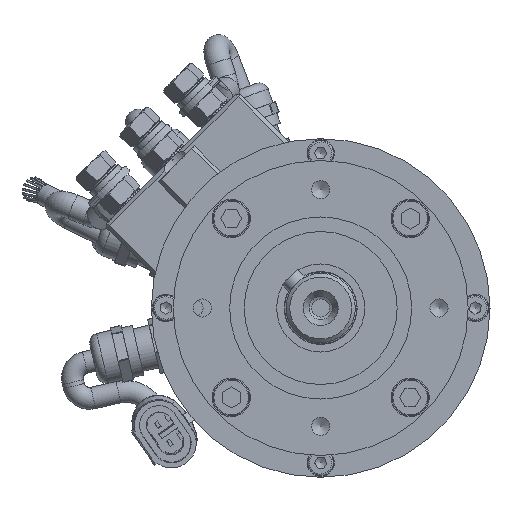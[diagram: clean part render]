
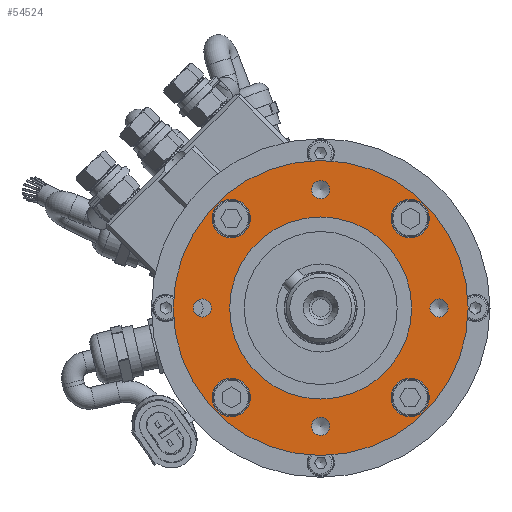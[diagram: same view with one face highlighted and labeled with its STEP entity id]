
A CAD part, front view. The second image highlights one B-rep face of the part: STEP entity #54524.
In plain terms, the highlighted planar face has unit normal (0, -1, 0).
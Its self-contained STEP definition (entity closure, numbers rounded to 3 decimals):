
#531=FACE_BOUND('',#6748,.T.);
#532=FACE_BOUND('',#6749,.T.);
#533=FACE_BOUND('',#6750,.T.);
#534=FACE_BOUND('',#6751,.T.);
#535=FACE_BOUND('',#6752,.T.);
#536=FACE_BOUND('',#6753,.T.);
#537=FACE_BOUND('',#6754,.T.);
#538=FACE_BOUND('',#6755,.T.);
#539=FACE_BOUND('',#6756,.T.);
#956=PLANE('',#57934);
#3651=FACE_OUTER_BOUND('',#6747,.T.);
#6747=EDGE_LOOP('',(#36762));
#6748=EDGE_LOOP('',(#36763));
#6749=EDGE_LOOP('',(#36764));
#6750=EDGE_LOOP('',(#36765));
#6751=EDGE_LOOP('',(#36766));
#6752=EDGE_LOOP('',(#36767));
#6753=EDGE_LOOP('',(#36768));
#6754=EDGE_LOOP('',(#36769));
#6755=EDGE_LOOP('',(#36770));
#6756=EDGE_LOOP('',(#36771));
#10486=CIRCLE('',#57889,2.5);
#10488=CIRCLE('',#57893,2.5);
#10490=CIRCLE('',#57897,2.5);
#10492=CIRCLE('',#57901,2.5);
#10494=CIRCLE('',#57905,5.25);
#10496=CIRCLE('',#57908,5.25);
#10498=CIRCLE('',#57911,5.25);
#10500=CIRCLE('',#57914,5.25);
#10503=CIRCLE('',#57919,25.);
#10505=CIRCLE('',#57922,40.5);
#22692=VERTEX_POINT('',#80591);
#22695=VERTEX_POINT('',#80600);
#22698=VERTEX_POINT('',#80609);
#22701=VERTEX_POINT('',#80618);
#22704=VERTEX_POINT('',#80627);
#22706=VERTEX_POINT('',#80633);
#22708=VERTEX_POINT('',#80639);
#22710=VERTEX_POINT('',#80645);
#22713=VERTEX_POINT('',#80655);
#22715=VERTEX_POINT('',#80661);
#28017=EDGE_CURVE('',#22692,#22692,#10486,.T.);
#28021=EDGE_CURVE('',#22695,#22695,#10488,.T.);
#28025=EDGE_CURVE('',#22698,#22698,#10490,.T.);
#28029=EDGE_CURVE('',#22701,#22701,#10492,.T.);
#28033=EDGE_CURVE('',#22704,#22704,#10494,.T.);
#28036=EDGE_CURVE('',#22706,#22706,#10496,.T.);
#28039=EDGE_CURVE('',#22708,#22708,#10498,.T.);
#28042=EDGE_CURVE('',#22710,#22710,#10500,.T.);
#28046=EDGE_CURVE('',#22713,#22713,#10503,.T.);
#28050=EDGE_CURVE('',#22715,#22715,#10505,.T.);
#36762=ORIENTED_EDGE('',*,*,#28050,.F.);
#36763=ORIENTED_EDGE('',*,*,#28046,.T.);
#36764=ORIENTED_EDGE('',*,*,#28017,.F.);
#36765=ORIENTED_EDGE('',*,*,#28021,.F.);
#36766=ORIENTED_EDGE('',*,*,#28025,.F.);
#36767=ORIENTED_EDGE('',*,*,#28029,.F.);
#36768=ORIENTED_EDGE('',*,*,#28033,.F.);
#36769=ORIENTED_EDGE('',*,*,#28036,.F.);
#36770=ORIENTED_EDGE('',*,*,#28039,.F.);
#36771=ORIENTED_EDGE('',*,*,#28042,.F.);
#54524=ADVANCED_FACE('',(#3651,#531,#532,#533,#534,#535,#536,#537,#538,
#539),#956,.F.);
#57889=AXIS2_PLACEMENT_3D('',#80593,#64176,#64177);
#57893=AXIS2_PLACEMENT_3D('',#80602,#64186,#64187);
#57897=AXIS2_PLACEMENT_3D('',#80611,#64196,#64197);
#57901=AXIS2_PLACEMENT_3D('',#80620,#64206,#64207);
#57905=AXIS2_PLACEMENT_3D('',#80629,#64216,#64217);
#57908=AXIS2_PLACEMENT_3D('',#80635,#64223,#64224);
#57911=AXIS2_PLACEMENT_3D('',#80641,#64230,#64231);
#57914=AXIS2_PLACEMENT_3D('',#80647,#64237,#64238);
#57919=AXIS2_PLACEMENT_3D('',#80656,#64248,#64249);
#57922=AXIS2_PLACEMENT_3D('',#80663,#64256,#64257);
#57934=AXIS2_PLACEMENT_3D('',#80678,#64281,#64282);
#64176=DIRECTION('center_axis',(0.,-1.,0.));
#64177=DIRECTION('ref_axis',(1.,0.,0.));
#64186=DIRECTION('center_axis',(0.,-1.,0.));
#64187=DIRECTION('ref_axis',(1.,0.,0.));
#64196=DIRECTION('center_axis',(0.,-1.,0.));
#64197=DIRECTION('ref_axis',(1.,0.,0.));
#64206=DIRECTION('center_axis',(0.,-1.,0.));
#64207=DIRECTION('ref_axis',(1.,0.,0.));
#64216=DIRECTION('center_axis',(0.,-1.,0.));
#64217=DIRECTION('ref_axis',(0.,0.,1.));
#64223=DIRECTION('center_axis',(0.,-1.,0.));
#64224=DIRECTION('ref_axis',(-1.,0.,0.));
#64230=DIRECTION('center_axis',(0.,-1.,0.));
#64231=DIRECTION('ref_axis',(0.,0.,
-1.));
#64237=DIRECTION('center_axis',(0.,-1.,0.));
#64238=DIRECTION('ref_axis',(1.,0.,0.));
#64248=DIRECTION('center_axis',(0.,1.,0.));
#64249=DIRECTION('ref_axis',(-1.,0.,0.));
#64256=DIRECTION('center_axis',(0.,1.,0.));
#64257=DIRECTION('ref_axis',(-1.,0.,0.));
#64281=DIRECTION('center_axis',(0.,1.,0.));
#64282=DIRECTION('ref_axis',(-1.,0.,0.));
#80591=CARTESIAN_POINT('',(-35.,-95.,0.));
#80593=CARTESIAN_POINT('Origin',(-32.5,-95.,0.));
#80600=CARTESIAN_POINT('',(-2.5,-95.,-32.5));
#80602=CARTESIAN_POINT('Origin',(0.,-95.,
-32.5));
#80609=CARTESIAN_POINT('',(30.,-95.,0.));
#80611=CARTESIAN_POINT('Origin',(32.5,-95.,0.));
#80618=CARTESIAN_POINT('',(-2.5,-95.,32.5));
#80620=CARTESIAN_POINT('Origin',(0.,-95.,
32.5));
#80627=CARTESIAN_POINT('',(-29.822,-95.,24.572));
#80629=CARTESIAN_POINT('Origin',(-24.572,-95.,24.572));
#80633=CARTESIAN_POINT('',(-29.822,-95.,-24.572));
#80635=CARTESIAN_POINT('Origin',(-24.572,-95.,-24.572));
#80639=CARTESIAN_POINT('',(19.322,-95.,-24.572));
#80641=CARTESIAN_POINT('Origin',(24.572,-95.,-24.572));
#80645=CARTESIAN_POINT('',(19.322,-95.,24.572));
#80647=CARTESIAN_POINT('Origin',(24.572,-95.,24.572));
#80655=CARTESIAN_POINT('',(25.,-95.,0.));
#80656=CARTESIAN_POINT('Origin',(0.,-95.,
0.));
#80661=CARTESIAN_POINT('',(40.5,-95.,0.));
#80663=CARTESIAN_POINT('Origin',(0.,-95.,
0.));
#80678=CARTESIAN_POINT('Origin',(0.,-95.,
25.));
